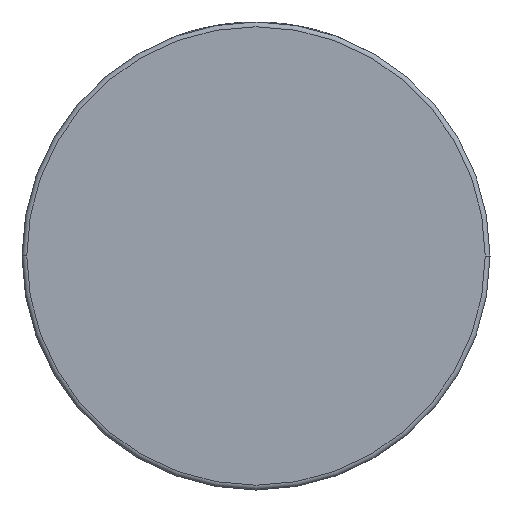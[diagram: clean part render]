
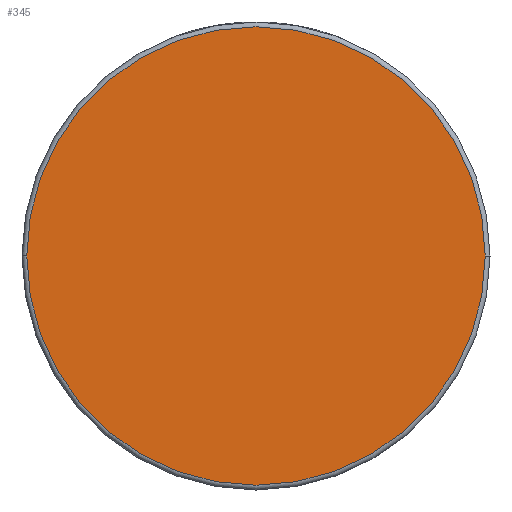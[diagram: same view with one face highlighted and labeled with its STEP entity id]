
A CAD part, front view. The second image highlights one B-rep face of the part: STEP entity #345.
In plain terms, the highlighted planar face has unit normal (0, -1, 0).
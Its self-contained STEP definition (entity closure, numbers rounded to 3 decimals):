
#306 = AXIS2_PLACEMENT_3D ( 'NONE', #2434, #3382, #1804 ) ;
#345 = ADVANCED_FACE ( 'NONE', ( #2820 ), #2111, .T. ) ;
#354 = AXIS2_PLACEMENT_3D ( 'NONE', #1569, #3285, #1259 ) ;
#411 = EDGE_LOOP ( 'NONE', ( #1162, #3094 ) ) ;
#505 = VERTEX_POINT ( 'NONE', #2907 ) ;
#926 = EDGE_CURVE ( 'NONE', #505, #3537, #4140, .T. ) ;
#1162 = ORIENTED_EDGE ( 'NONE', *, *, #926, .T. ) ;
#1259 = DIRECTION ( 'NONE',  ( 1., 0., 0. ) ) ;
#1374 = CARTESIAN_POINT ( 'NONE',  ( 49., -31.5, 0. ) ) ;
#1423 = DIRECTION ( 'NONE',  ( 1., 0., 0. ) ) ;
#1542 = AXIS2_PLACEMENT_3D ( 'NONE', #1374, #2363, #1423 ) ;
#1569 = CARTESIAN_POINT ( 'NONE',  ( 0., -31.5, 0. ) ) ;
#1804 = DIRECTION ( 'NONE',  ( 1., 0., 0. ) ) ;
#2111 = PLANE ( 'NONE',  #1542 ) ;
#2363 = DIRECTION ( 'NONE',  ( 0., -1., 0. ) ) ;
#2434 = CARTESIAN_POINT ( 'NONE',  ( 0., -31.5, 0. ) ) ;
#2445 = EDGE_CURVE ( 'NONE', #3537, #505, #3188, .T. ) ;
#2820 = FACE_OUTER_BOUND ( 'NONE', #411, .T. ) ;
#2907 = CARTESIAN_POINT ( 'NONE',  ( 48., -31.5, 0. ) ) ;
#3094 = ORIENTED_EDGE ( 'NONE', *, *, #2445, .T. ) ;
#3188 = CIRCLE ( 'NONE', #306, 48. ) ;
#3285 = DIRECTION ( 'NONE',  ( 0., -1., 0. ) ) ;
#3382 = DIRECTION ( 'NONE',  ( 0., -1., 0. ) ) ;
#3442 = CARTESIAN_POINT ( 'NONE',  ( -48., -31.5, 0. ) ) ;
#3537 = VERTEX_POINT ( 'NONE', #3442 ) ;
#4140 = CIRCLE ( 'NONE', #354, 48. ) ;
